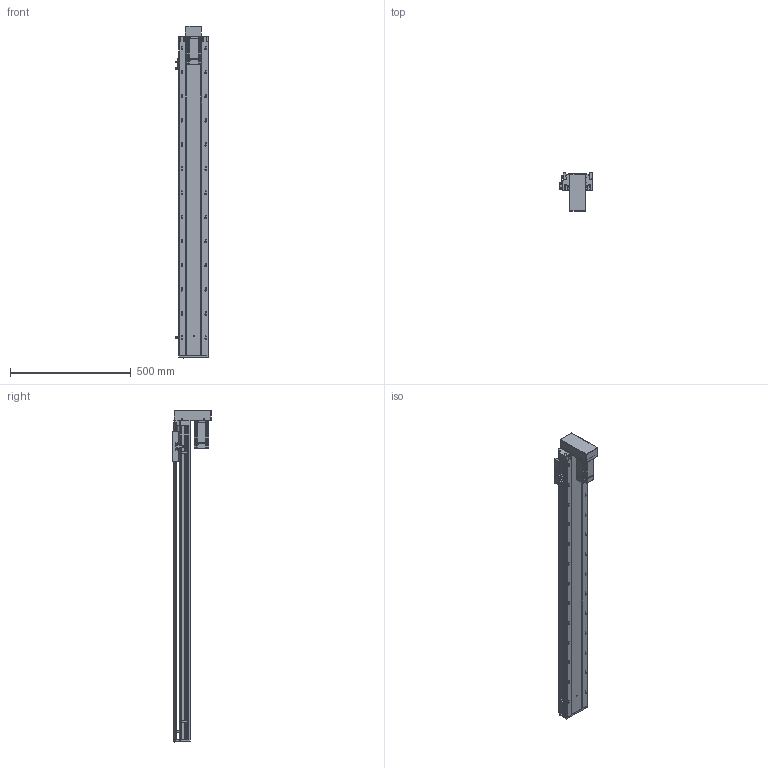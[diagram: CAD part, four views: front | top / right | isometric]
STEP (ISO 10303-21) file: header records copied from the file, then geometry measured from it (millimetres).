
FILE_DESCRIPTION (( 'STEP AP203' ), '1' );
FILE_NAME ('RY120-L2020-1000-BK.SLDASM_1100.step', '2021-03-12T07:20:13', ( '盈信电脑' ), ( '东莞市道滘镇水果街19号' ), 'SwSTEP 2.0', 'SolidWorks 2012', '' );
FILE_SCHEMA (( 'CONFIG_CONTROL_DESIGN' ));
Length unit declared in the file: millimetre
Products named in the file (18): RY120-L2020-1000-BK.SLDASM_1100; RY120-400W萇儂傷-BK; RY120下折折电机安装板; RY120狟殏萇儂欶; 侂狟400W侜督萇儂; RY80肮祭湍芢雄輸; 同步轮3M34齿宽15单边凸台; RY80肮祭湍覃踡啣; RY120外置感应片(140共用）; 15; RY120转拆电端丝杆支撑座(20丝杆，7002轴承); RY120綴裔啣; 滅袉蝶18-10; 滅袉蝶18-24; 覜茼ん672; RY120臏賑輸(20蹟譫); RY120-1000-BK蛌殏倰第菁釱_1100; RY120-1000-BK蛌殏倰第奻裔啣_1100
Assembly tree (21 placements, depth 4):
  RY120-L2020-1000-BK.SLDASM_1100
    RY120-1000-BK蛌殏倰第菁釱_1100
    RY120-1000-BK蛌殏倰第奻裔啣_1100
    RY120臏賑輸(20蹟譫)
    RY120綴裔啣
    覜茼ん672  x3
    滅袉蝶18-10
    滅袉蝶18-24  x2
    RY120外置感应片(140共用）
    RY120转拆电端丝杆支撑座(20丝杆，7002轴承)
    RY120-400W萇儂傷-BK
      侂狟400W侜督萇儂
        15
      RY80肮祭湍芢雄輸  x2
      同步轮3M34齿宽15单边凸台
      RY80肮祭湍覃踡啣
      RY120狟殏萇儂欶
      RY120下折折电机安装板
Bounding box: 135.7 x 159.5 x 1375 mm (x, y, z)
Volume: 3767095.8 mm3; surface area: 1409547.5 mm2
Topology: 20 solids, 20 shells, 3232 faces, 8875 edges, 5657 vertices
Faces by surface type: cylinder 1443, plane 1417, cone 267, bspline 105
Entity records: 107779 total; most frequent: CARTESIAN_POINT 29738, ORIENTED_EDGE 16258, DIRECTION 15464, EDGE_CURVE 8129, AXIS2_PLACEMENT_3D 5460, VERTEX_POINT 5281, VECTOR 4544, LINE 4544
